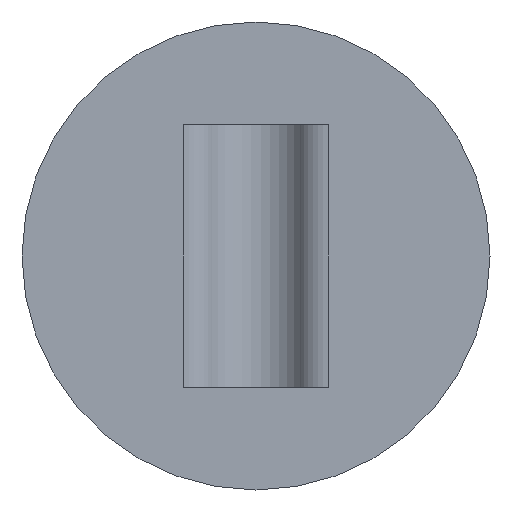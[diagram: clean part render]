
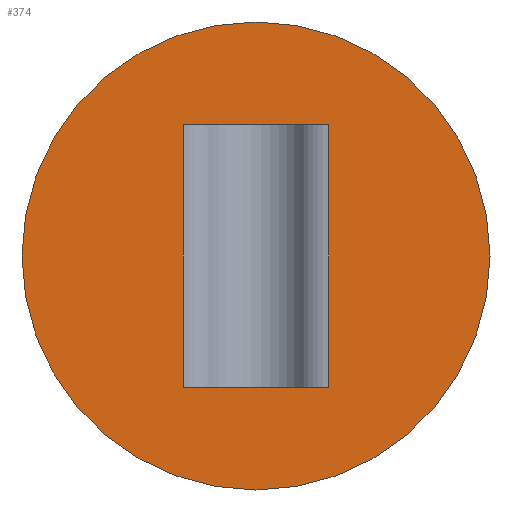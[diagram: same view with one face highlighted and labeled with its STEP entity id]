
A CAD part, front view. The second image highlights one B-rep face of the part: STEP entity #374.
In plain terms, the highlighted planar face has unit normal (0, -1, 0).
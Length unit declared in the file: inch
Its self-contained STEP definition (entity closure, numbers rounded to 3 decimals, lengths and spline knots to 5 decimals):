
#6 = ORIENTED_EDGE ( 'NONE', *, *, #402, .T. ) ;
#7 = DIRECTION ( 'NONE',  ( 0., 0., 1. ) ) ;
#9 = CARTESIAN_POINT ( 'NONE',  ( -0.19365, -0.04, 0. ) ) ;
#18 = DIRECTION ( 'NONE',  ( 1., 0., 0. ) ) ;
#27 = ORIENTED_EDGE ( 'NONE', *, *, #235, .T. ) ;
#36 = EDGE_CURVE ( 'NONE', #499, #373, #262, .T. ) ;
#43 = CARTESIAN_POINT ( 'NONE',  ( -0.625, -0.04, 0.35 ) ) ;
#45 = DIRECTION ( 'NONE',  ( 1., 0., 0. ) ) ;
#56 = CARTESIAN_POINT ( 'NONE',  ( 0.19365, -0.04, 0.7 ) ) ;
#60 = AXIS2_PLACEMENT_3D ( 'NONE', #220, #425, #460 ) ;
#80 = CIRCLE ( 'NONE', #118, 0.625 ) ;
#86 = FACE_OUTER_BOUND ( 'NONE', #489, .T. ) ;
#91 = DIRECTION ( 'NONE',  ( 1., 0., 0. ) ) ;
#103 = DIRECTION ( 'NONE',  ( 0., 0., 1. ) ) ;
#118 = AXIS2_PLACEMENT_3D ( 'NONE', #475, #271, #18 ) ;
#120 = VECTOR ( 'NONE', #91, 39.37008 ) ;
#124 = ORIENTED_EDGE ( 'NONE', *, *, #36, .F. ) ;
#129 = FACE_BOUND ( 'NONE', #197, .T. ) ;
#132 = LINE ( 'NONE', #470, #120 ) ;
#147 = EDGE_CURVE ( 'NONE', #373, #492, #273, .T. ) ;
#174 = DIRECTION ( 'NONE',  ( 1., 0., 0. ) ) ;
#178 = LINE ( 'NONE', #256, #277 ) ;
#197 = EDGE_LOOP ( 'NONE', ( #124, #27, #245, #389 ) ) ;
#220 = CARTESIAN_POINT ( 'NONE',  ( -0.625, -0.04, 0.7 ) ) ;
#222 = ORIENTED_EDGE ( 'NONE', *, *, #538, .T. ) ;
#227 = CARTESIAN_POINT ( 'NONE',  ( 0.19365, -0.04, 0. ) ) ;
#235 = EDGE_CURVE ( 'NONE', #499, #450, #178, .T. ) ;
#245 = ORIENTED_EDGE ( 'NONE', *, *, #275, .T. ) ;
#250 = VECTOR ( 'NONE', #103, 39.37008 ) ;
#255 = AXIS2_PLACEMENT_3D ( 'NONE', #422, #301, #174 ) ;
#256 = CARTESIAN_POINT ( 'NONE',  ( -0.19365, -0.04, 0. ) ) ;
#262 = LINE ( 'NONE', #9, #396 ) ;
#265 = CARTESIAN_POINT ( 'NONE',  ( 0.625, -0.04, 0.35 ) ) ;
#271 = DIRECTION ( 'NONE',  ( 0., -1., 0. ) ) ;
#273 = LINE ( 'NONE', #227, #250 ) ;
#275 = EDGE_CURVE ( 'NONE', #450, #492, #132, .T. ) ;
#277 = VECTOR ( 'NONE', #7, 39.37008 ) ;
#289 = CIRCLE ( 'NONE', #255, 0.625 ) ;
#301 = DIRECTION ( 'NONE',  ( 0., -1., 0. ) ) ;
#358 = VERTEX_POINT ( 'NONE', #265 ) ;
#373 = VERTEX_POINT ( 'NONE', #505 ) ;
#374 = ADVANCED_FACE ( 'NONE', ( #86, #129 ), #542, .F. ) ;
#378 = VERTEX_POINT ( 'NONE', #43 ) ;
#389 = ORIENTED_EDGE ( 'NONE', *, *, #147, .F. ) ;
#394 = CARTESIAN_POINT ( 'NONE',  ( -0.19365, -0.04, 0. ) ) ;
#396 = VECTOR ( 'NONE', #45, 39.37008 ) ;
#402 = EDGE_CURVE ( 'NONE', #358, #378, #289, .T. ) ;
#422 = CARTESIAN_POINT ( 'NONE',  ( 0., -0.04, 0.35 ) ) ;
#425 = DIRECTION ( 'NONE',  ( 0., 1., 0. ) ) ;
#450 = VERTEX_POINT ( 'NONE', #519 ) ;
#460 = DIRECTION ( 'NONE',  ( 0., 0., 1. ) ) ;
#470 = CARTESIAN_POINT ( 'NONE',  ( -0.19365, -0.04, 0.7 ) ) ;
#475 = CARTESIAN_POINT ( 'NONE',  ( 0., -0.04, 0.35 ) ) ;
#489 = EDGE_LOOP ( 'NONE', ( #6, #222 ) ) ;
#492 = VERTEX_POINT ( 'NONE', #56 ) ;
#499 = VERTEX_POINT ( 'NONE', #394 ) ;
#505 = CARTESIAN_POINT ( 'NONE',  ( 0.19365, -0.04, 0. ) ) ;
#519 = CARTESIAN_POINT ( 'NONE',  ( -0.19365, -0.04, 0.7 ) ) ;
#538 = EDGE_CURVE ( 'NONE', #378, #358, #80, .T. ) ;
#542 = PLANE ( 'NONE',  #60 ) ;
